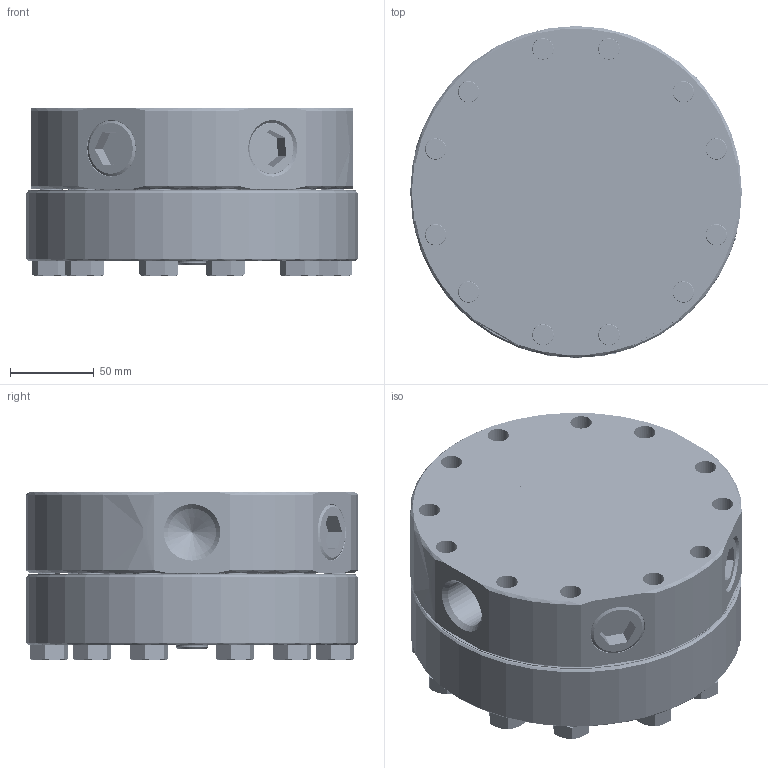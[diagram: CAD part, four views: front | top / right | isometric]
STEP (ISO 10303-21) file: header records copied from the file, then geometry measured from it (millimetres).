
FILE_DESCRIPTION(/* description */ (''),/* implementation_level */ '2;1');
FILE_NAME(/* name */ 'C:\Users\kdone\Equilibar Network Dropbox\Models\GS(D) Series\GS8\GSDH8SNT5A External Assembly.stp',/* time_stamp */ '2022-03-17T12:58:31-04:00',/* author */ ('kdone'),/* organization */ (''),/* preprocessor_version */ 'ST-DEVELOPER v18.1',/* originating_system */ 'Autodesk Inventor 2021',/* authorisation */ '');
FILE_SCHEMA (('AUTOMOTIVE_DESIGN { 1 0 10303 214 3 1 1 }'));
Length unit declared in the file: inch
Products named in the file (1): GSDH8SNT5A Assembly_Shrinkwrap_1
Bounding box: 198.12 x 198.12 x 100.36 mm (x, y, z)
Volume: 2438534.2 mm3; surface area: 354633.7 mm2
Topology: 3 solids, 3 shells, 2366 faces, 6541 edges, 4315 vertices
Faces by surface type: plane 1303, cylinder 749, bspline 168, cone 133, torus 13
Full cylindrical faces by diameter (mm): 8.611 x1, 12.454 x288, 12.751 x172, 14.287 x120, 14.681 x24, 19.05 x1, 28.575 x6, 130.302 x1, 137.389 x1, 143.002 x1, 150.012 x2, 195.58 x1, 198.12 x1
Entity records: 125804 total; most frequent: CARTESIAN_POINT 67051, ORIENTED_EDGE 13074, DIRECTION 9765, EDGE_CURVE 6537, VERTEX_POINT 4315, LINE 4175, VECTOR 4175, AXIS2_PLACEMENT_3D 2795
